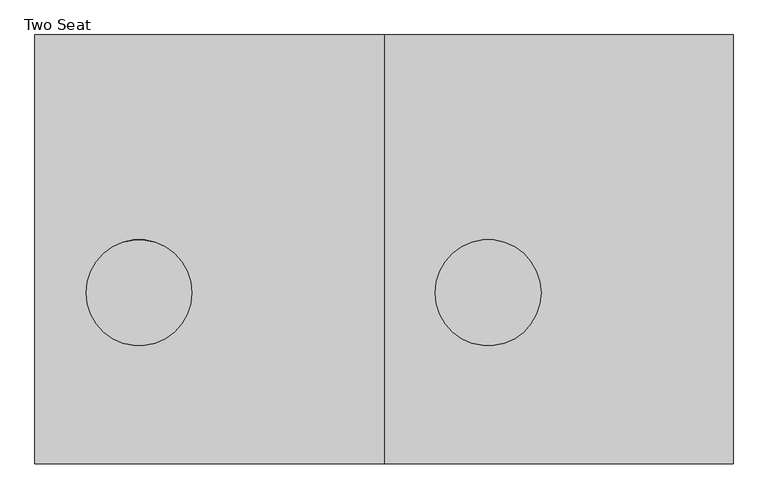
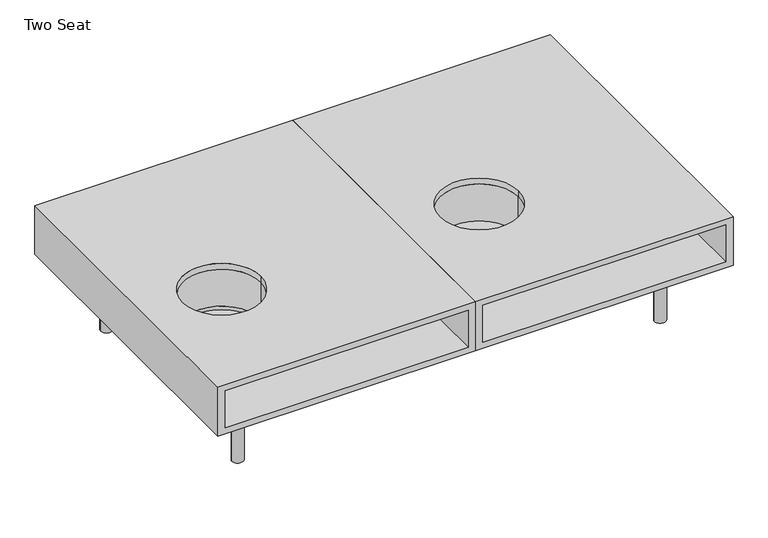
"""IFC4 building model written with IfcOpenShell, lengths in millimetres: furniture geometry, Coalesse_AM_Seating_LoungeChair_Sistema_LegBase_TwoSeat : Two Seat."""

from ifc_helpers import new_model, si_unit, point, frame, frame_2d, origin, origin_with_axes, place, context, project, spatial, polyline, circle_curve, trimmed, segment, composite_curve, outline, extrude, source, transform, mapped, element, save
from ifc_brep_helpers import plane_surface, cylinder_surface, revolved_surface, advanced_brep


def two_seat_c8171cec(model_context):
    return source(origin(), model_context, "Body", "SolidModel", [
        extrude(outline(composite_curve([segment(trimmed(circle_curve(frame_2d((989.1765227, 335.9943389)), 6.096), [point((995.2725227, 335.9943389))], [point((983.0805227, 335.9943389))], False, "CARTESIAN"), True, "CONTINUOUS"), segment(trimmed(circle_curve(frame_2d((989.1765227, 335.9943389)), 6.096), [point((983.0805227, 335.9943389))], [point((995.2725227, 335.9943389))], False, "CARTESIAN"), True, "CONTINUOUS")], self_intersect=False)), origin_with_axes(), (0.0, 0.0, 1.0), 4.3662291),
        extrude(outline(composite_curve([segment(trimmed(circle_curve(frame_2d((989.1765227, -327.2630889)), 6.096), [point((995.2725227, -327.2630889))], [point((983.0805227, -327.2630889))], False, "CARTESIAN"), True, "CONTINUOUS"), segment(trimmed(circle_curve(frame_2d((989.1765227, -327.2630889)), 6.096), [point((983.0805227, -327.2630889))], [point((995.2725227, -327.2630889))], False, "CARTESIAN"), True, "CONTINUOUS")], self_intersect=False)), origin_with_axes(), (0.0, 0.0, 1.0), 4.3662291),
        extrude(outline(composite_curve([segment(polyline([(157.0399209, 1001.756375), (201.7356243, 1001.756375)]), True, "CONTINUOUS"), segment(trimmed(circle_curve(frame_2d((201.7356243, 998.708375)), 3.048), [point((201.7356243, 1001.756375))], [point((204.7836243, 998.708375))], False, "CARTESIAN"), True, "CONTINUOUS"), segment(polyline([(204.7836243, 998.708375), (204.7836243, 979.366199)]), True, "CONTINUOUS"), segment(trimmed(circle_curve(frame_2d((201.7356243, 979.366199)), 3.048), [point((204.7836243, 979.366199))], [point((201.7356243, 976.318199))], False, "CARTESIAN"), True, "CONTINUOUS"), segment(polyline([(201.7356243, 976.318199), (157.1249936, 976.318199)]), True, "CONTINUOUS"), segment(trimmed(circle_curve(frame_2d((157.1249936, 979.4512718)), 3.1330728), [point((157.1249936, 976.318199))], [point((153.9919209, 979.4512718))], False, "CARTESIAN"), True, "CONTINUOUS"), segment(polyline([(153.9919209, 979.4512718), (153.9919209, 998.708375)]), True, "CONTINUOUS"), segment(trimmed(circle_curve(frame_2d((157.0399209, 998.708375)), 3.048), [point((153.9919209, 998.708375))], [point((157.0399209, 1001.756375))], False, "CARTESIAN"), True, "CONTINUOUS")], self_intersect=False)), frame((0.0, 222.3519802, 0.0), z_axis=(0.0, 1.0, 0.0), x_axis=(0.0, 0.0, 1.0)), (0.0, 0.0, 1.0), 92.6273161),
        extrude(outline(composite_curve([segment(polyline([(157.0399209, 1001.756375), (201.7356243, 1001.756375)]), True, "CONTINUOUS"), segment(trimmed(circle_curve(frame_2d((201.7356243, 998.708375)), 3.048), [point((201.7356243, 1001.756375))], [point((204.7836243, 998.708375))], False, "CARTESIAN"), True, "CONTINUOUS"), segment(polyline([(204.7836243, 998.708375), (204.7836243, 979.366199)]), True, "CONTINUOUS"), segment(trimmed(circle_curve(frame_2d((201.7356243, 979.366199)), 3.048), [point((204.7836243, 979.366199))], [point((201.7356243, 976.318199))], False, "CARTESIAN"), True, "CONTINUOUS"), segment(polyline([(201.7356243, 976.318199), (157.1249936, 976.318199)]), True, "CONTINUOUS"), segment(trimmed(circle_curve(frame_2d((157.1249936, 979.4512718)), 3.1330728), [point((157.1249936, 976.318199))], [point((153.9919209, 979.4512718))], False, "CARTESIAN"), True, "CONTINUOUS"), segment(polyline([(153.9919209, 979.4512718), (153.9919209, 998.708375)]), True, "CONTINUOUS"), segment(trimmed(circle_curve(frame_2d((157.0399209, 998.708375)), 3.048), [point((153.9919209, 998.708375))], [point((157.0399209, 1001.756375))], False, "CARTESIAN"), True, "CONTINUOUS")], self_intersect=False)), frame((0.0, -314.9792963, 0.0), z_axis=(0.0, 1.0, 0.0), x_axis=(0.0, 0.0, 1.0)), (0.0, 0.0, 1.0), 92.6273161),
        extrude(outline(composite_curve([segment(trimmed(circle_curve(frame_2d((176.3356606, 966.5259944)), 3.048), [point((179.3836606, 966.5259944))], [point((176.3356606, 963.4779944))], False, "CARTESIAN"), True, "CONTINUOUS"), segment(polyline([(176.3356606, 963.4779944), (157.0399209, 963.4779944)]), True, "CONTINUOUS"), segment(trimmed(circle_curve(frame_2d((157.0399209, 966.5259944)), 3.048), [point((157.0399209, 963.4779944))], [point((153.9919209, 966.5259944))], False, "CARTESIAN"), True, "CONTINUOUS"), segment(polyline([(153.9919209, 966.5259944), (153.9919209, 1011.2135501)]), True, "CONTINUOUS"), segment(trimmed(circle_curve(frame_2d((157.056462, 1011.2135501)), 3.0645412), [point((153.9919209, 1011.2135501))], [point((157.056462, 1014.2780913))], False, "CARTESIAN"), True, "CONTINUOUS"), segment(polyline([(157.056462, 1014.2780913), (176.3356606, 1014.2780913)]), True, "CONTINUOUS"), segment(trimmed(circle_curve(frame_2d((176.3356606, 1011.2300913)), 3.048), [point((176.3356606, 1014.2780913))], [point((179.3836606, 1011.2300913))], False, "CARTESIAN"), True, "CONTINUOUS"), segment(polyline([(179.3836606, 1011.2300913), (179.3836606, 966.5259944)]), True, "CONTINUOUS")], self_intersect=False)), frame((0.0, -222.3519802, 0.0), z_axis=(0.0, 1.0, 0.0), x_axis=(0.0, 0.0, 1.0)), (0.0, 0.0, 1.0), 444.7039604),
        extrude(outline(composite_curve([segment(trimmed(circle_curve(frame_2d((989.1765227, 332.3095741)), 16.51), [point((1005.6865227, 332.3095741))], [point((972.6665227, 332.3095741))], False, "CARTESIAN"), True, "CONTINUOUS"), segment(trimmed(circle_curve(frame_2d((989.1765227, 332.3095741)), 16.51), [point((972.6665227, 332.3095741))], [point((1005.6865227, 332.3095741))], False, "CARTESIAN"), True, "CONTINUOUS")], self_intersect=False)), frame((0.0, 0.0, 4.3662291), z_axis=(0.0, 0.0, 1.0), x_axis=(1.0, 0.0, 0.0)), (0.0, 0.0, 1.0), 200.1037709),
        extrude(outline(composite_curve([segment(trimmed(circle_curve(frame_2d((988.7796477, -327.5470741)), 16.51), [point((1005.2896477, -327.5470741))], [point((972.2696477, -327.5470741))], False, "CARTESIAN"), True, "CONTINUOUS"), segment(trimmed(circle_curve(frame_2d((988.7796477, -327.5470741)), 16.51), [point((972.2696477, -327.5470741))], [point((1005.2896477, -327.5470741))], False, "CARTESIAN"), True, "CONTINUOUS")], self_intersect=False)), frame((0.0, 0.0, 4.3662291), z_axis=(0.0, 0.0, 1.0), x_axis=(1.0, 0.0, 0.0)), (0.0, 0.0, 1.0), 200.1037709),
        advanced_brep(
        [(-353.0071698, -461.2704381, 336.5211742), (-353.0071698, -461.2704381, 223.173587), (-353.0071698, 459.4795619, 223.173587), (-353.0071698, 459.4795619, 336.5211742), (353.6069667, -461.2704381, 336.5211742), (353.6069667, 459.4795619, 336.5211742), (-37.7047777, -93.7879891, 336.5211742), (-265.0667966, -93.7879891, 336.5211742), (374.4965227, -461.2704381, 354.7774), (-374.8034773, -461.2704381, 354.7774), (-374.8034773, -461.2704381, 204.47), (374.4965227, -461.2704381, 204.47), (353.6069667, -461.2704381, 223.173587), (374.4965227, 459.4795619, 354.7774), (374.4965227, 459.4795619, 204.47), (-374.8034773, 459.4795619, 204.47), (-374.8034773, 459.4795619, 354.7774), (353.6069667, 459.4795619, 223.173587), (-265.0667966, -93.7879891, 354.7774), (-37.7047777, -93.7879891, 354.7774), (-265.0667966, -93.7879891, 223.173587), (-37.7047777, -93.7879891, 223.173587), (-265.0667966, -93.7879891, 212.4123377), (-37.7047777, -93.7879891, 212.4123377)],
        [
            (0, 1),
            (1, 2),
            (2, 3),
            (3, 0),
            (4, 0),
            (3, 5),
            (5, 4),
            (6, 7, circle_curve(frame((-151.3857872, -93.7879891, 336.5211742), z_axis=(0.0, 0.0, 1.0), x_axis=(1.0, 0.0, 0.0)), 113.6810095)),
            (7, 6, circle_curve(frame((-151.3857872, -93.7879891, 336.5211742), z_axis=(0.0, 0.0, 1.0), x_axis=(1.0, 0.0, 0.0)), 113.6810095)),
            (8, 9),
            (9, 10),
            (10, 11),
            (11, 8),
            (4, 12),
            (12, 1),
            (13, 14),
            (14, 15),
            (15, 16),
            (16, 13),
            (2, 17),
            (17, 5),
            (8, 13),
            (16, 9),
            (18, 19, circle_curve(frame((-151.3857872, -93.7879891, 354.7774), z_axis=(0.0, 0.0, -1.0), x_axis=(1.0, 0.0, 0.0)), 113.6810095)),
            (19, 18, circle_curve(frame((-151.3857872, -93.7879891, 354.7774), z_axis=(0.0, 0.0, -1.0), x_axis=(1.0, 0.0, 0.0)), 113.6810095)),
            (15, 10),
            (14, 11),
            (17, 12),
            (20, 21, circle_curve(frame((-151.3857872, -93.7879891, 223.173587), z_axis=(0.0, 0.0, -1.0), x_axis=(1.0, 0.0, 0.0)), 113.6810095)),
            (21, 20, circle_curve(frame((-151.3857872, -93.7879891, 223.173587), z_axis=(0.0, 0.0, -1.0), x_axis=(1.0, 0.0, 0.0)), 113.6810095)),
            (22, 23, circle_curve(frame((-151.3857872, -93.7879891, 212.4123377), z_axis=(0.0, 0.0, 1.0), x_axis=(1.0, 0.0, 0.0)), 113.6810095)),
            (23, 22, circle_curve(frame((-151.3857872, -93.7879891, 212.4123377), z_axis=(0.0, 0.0, 1.0), x_axis=(1.0, 0.0, 0.0)), 113.6810095)),
            (23, 21),
            (20, 22),
            (18, 7),
            (6, 19),
        ],
        [
            plane_surface(frame((-353.0071698, -461.2704381, 223.173587), z_axis=(1.0, 0.0, 0.0), x_axis=(0.0, 1.0, 0.0))),
            plane_surface(frame((-353.0071698, -461.2704381, 336.5211742), z_axis=(0.0, 0.0, -1.0), x_axis=(0.0, 1.0, 0.0))),
            plane_surface(frame((-371.2653576, -461.2704381, 354.7774), z_axis=(0.0, -1.0, 0.0), x_axis=(-1.0, 0.0, 0.0))),
            plane_surface(frame((-371.2653576, 459.4795619, 354.7774), z_axis=(0.0, 1.0, 0.0), x_axis=(1.0, 0.0, 0.0))),
            plane_surface(frame((374.4965227, -461.2704381, 354.7774), z_axis=(0.0, 0.0, 1.0), x_axis=(0.0, 1.0, 0.0))),
            plane_surface(frame((-374.8034773, -461.2704381, 354.7774), z_axis=(-1.0, 0.0, 0.0), x_axis=(0.0, 1.0, 0.0))),
            plane_surface(frame((-374.8034773, -461.2704381, 204.47), z_axis=(0.0, 0.0, -1.0), x_axis=(0.0, 1.0, 0.0))),
            plane_surface(frame((374.4965227, -461.2704381, 204.47), z_axis=(1.0, 0.0, 0.0), x_axis=(0.0, 1.0, 0.0))),
            plane_surface(frame((353.6069667, -461.2704381, 336.5211742), z_axis=(-1.0, 0.0, 0.0), x_axis=(0.0, 1.0, 0.0))),
            plane_surface(frame((353.6069667, -461.2704381, 223.173587), z_axis=(0.0, 0.0, 1.0), x_axis=(0.0, 1.0, 0.0))),
            plane_surface(frame((-37.7047777, -93.7879891, 212.4123377), z_axis=(0.0, 0.0, 1.0), x_axis=(0.0, -1.0, 0.0))),
            revolved_surface(polyline([(-37.70477770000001, -93.7879891, 212.4123377), (-37.70477770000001, -93.7879891, 223.173587)]), (-151.3857872, -93.7879891, 446.6108932), (0.0, 0.0, -1.0)),
            revolved_surface(polyline([(-37.70477770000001, -93.7879891, 336.5211742), (-37.70477770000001, -93.7879891, 354.7774)]), (-151.3857872, -93.7879891, 446.6108932), (0.0, 0.0, -1.0)),
        ],
        [
            (0, [[1, 2, 3, 4]]),
            (1, [[5, -4, 6, 7], [8, 9]]),
            (2, [[10, 11, 12, 13], [14, 15, -1, -5]]),
            (3, [[16, 17, 18, 19], [-6, -3, 20, 21]]),
            (4, [[-10, 22, -19, 23], [24, 25]]),
            (5, [[-11, -23, -18, 26]]),
            (6, [[-12, -26, -17, 27]]),
            (7, [[-13, -27, -16, -22]]),
            (8, [[-14, -7, -21, 28]]),
            (9, [[-15, -28, -20, -2], [29, 30]]),
            (10, [[31, 32]]),
            (11, [[-32, 33, -29, 34]]),
            (12, [[35, -8, 36, -24]]),
            (12, [[-35, -25, -36, -9]]),
            (11, [[-31, -34, -30, -33]]),
        ],
    ),
        extrude(outline(composite_curve([segment(trimmed(circle_curve(frame_2d((-151.3857872, -93.7879891)), 127.924967), [point((-279.3107542, -93.7879891))], [point((-23.4608201, -93.7879891))], False, "CARTESIAN"), True, "CONTINUOUS"), segment(trimmed(circle_curve(frame_2d((-151.3857872, -93.7879891)), 127.924967), [point((-23.4608201, -93.7879891))], [point((-279.3107542, -93.7879891))], False, "CARTESIAN"), True, "CONTINUOUS")], self_intersect=False), holes=[composite_curve([segment(trimmed(circle_curve(frame_2d((-151.3857872, -93.7879891)), 113.6810095), [point((-265.0667966, -93.7879891))], [point((-37.7047777, -93.7879891))], True, "CARTESIAN"), True, "CONTINUOUS"), segment(trimmed(circle_curve(frame_2d((-151.3857872, -93.7879891)), 113.6810095), [point((-37.7047777, -93.7879891))], [point((-265.0667966, -93.7879891))], True, "CARTESIAN"), True, "CONTINUOUS")], self_intersect=False)]), frame((0.0, 0.0, 212.4123377), z_axis=(0.0, 0.0, 1.0), x_axis=(1.0, 0.0, 0.0)), (0.0, 0.0, 1.0), 124.1087275),
        advanced_brep(
        [(484.2332034, -93.7879891, 336.5210652), (711.5952223, -93.7879891, 336.5210652), (711.5952223, -93.7879891, 223.173587), (711.5952223, -93.7879891, 212.4123377), (484.2332034, -93.7879891, 212.4123377), (484.2332034, -93.7879891, 223.173587), (469.9892458, -93.7879891, 212.4123377), (725.8391799, -93.7879891, 212.4123377), (469.9892458, -93.7879891, 336.5210652), (725.8391799, -93.7879891, 336.5210652)],
        [
            (0, 1, circle_curve(frame((597.9142128, -93.7879891, 336.5210652), z_axis=(0.0, 0.0, 1.0), x_axis=(1.0, 0.0, 0.0)), 113.6810095)),
            (1, 2),
            (2, 3),
            (3, 4, circle_curve(frame((597.9142128, -93.7879891, 212.4123377), z_axis=(0.0, 0.0, -1.0), x_axis=(1.0, 0.0, 0.0)), 113.6810095)),
            (4, 5),
            (5, 0),
            (6, 7, circle_curve(frame((597.9142128, -93.7879891, 212.4123377), z_axis=(0.0, 0.0, -1.0), x_axis=(1.0, 0.0, 0.0)), 127.924967)),
            (7, 6, circle_curve(frame((597.9142128, -93.7879891, 212.4123377), z_axis=(0.0, 0.0, -1.0), x_axis=(1.0, 0.0, 0.0)), 127.924967)),
            (3, 4, circle_curve(frame((597.9142128, -93.7879891, 212.4123377), z_axis=(0.0, 0.0, 1.0), x_axis=(1.0, 0.0, 0.0)), 113.6810095)),
            (8, 9, circle_curve(frame((597.9142128, -93.7879891, 336.5210652), z_axis=(0.0, 0.0, 1.0), x_axis=(1.0, 0.0, 0.0)), 127.924967)),
            (9, 8, circle_curve(frame((597.9142128, -93.7879891, 336.5210652), z_axis=(0.0, 0.0, 1.0), x_axis=(1.0, 0.0, 0.0)), 127.924967)),
            (0, 1, circle_curve(frame((597.9142128, -93.7879891, 336.5210652), z_axis=(0.0, 0.0, -1.0), x_axis=(1.0, 0.0, 0.0)), 113.6810095)),
            (8, 6),
            (7, 9),
        ],
        [
            revolved_surface(polyline([(711.5952222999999, -93.7879891, 212.4123377), (711.5952222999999, -93.7879891, 336.5210652)]), (597.9142128, -93.7879891, 212.4123377), (0.0, 0.0, -1.0)),
            plane_surface(frame((711.5952223, -93.7879891, 212.4123377), z_axis=(0.0, 0.0, -1.0), x_axis=(0.0, 1.0, 0.0))),
            plane_surface(frame((711.5952223, -93.7879891, 336.5210652), z_axis=(0.0, 0.0, 1.0), x_axis=(0.0, -1.0, 0.0))),
            cylinder_surface(frame((597.9142128, -93.7879891, 0.0), z_axis=(0.0, 0.0, 1.0), x_axis=(1.0, 0.0, 0.0)), 127.924967),
        ],
        [
            (0, [[1, 2, 3, 4, 5, 6]]),
            (1, [[7, 8], [-4, 9]]),
            (2, [[10, 11], [12, -1]]),
            (0, [[-12, -6, -5, -9, -3, -2]]),
            (3, [[-10, 13, -8, 14]]),
            (3, [[-11, -14, -7, -13]]),
        ],
    ),
        advanced_brep(
        [(1102.9069667, -461.2704381, 336.5211742), (396.2928302, -461.2704381, 336.5211742), (396.2928302, 459.4795619, 336.5211742), (1102.9069667, 459.4795619, 336.5211742), (711.5952223, -93.7879891, 336.5211742), (484.2332034, -93.7879891, 336.5211742), (1123.7965227, -461.2704381, 354.7774), (374.4965227, -461.2704381, 354.7774), (374.4965227, -461.2704381, 204.47), (1123.7965227, -461.2704381, 204.47), (1102.9069667, -461.2704381, 223.173587), (396.2928302, -461.2704381, 223.173587), (1123.7965227, 459.4795619, 354.7774), (1123.7965227, 459.4795619, 204.47), (374.4965227, 459.4795619, 204.47), (374.4965227, 459.4795619, 354.7774), (396.2928302, 459.4795619, 223.173587), (1102.9069667, 459.4795619, 223.173587), (484.2332034, -93.7879891, 354.7774), (711.5952223, -93.7879891, 354.7774)],
        [
            (0, 1),
            (1, 2),
            (2, 3),
            (3, 0),
            (4, 5, circle_curve(frame((597.9142128, -93.7879891, 336.5211742), z_axis=(0.0, 0.0, 1.0), x_axis=(1.0, 0.0, 0.0)), 113.6810095)),
            (5, 4, circle_curve(frame((597.9142128, -93.7879891, 336.5211742), z_axis=(0.0, 0.0, 1.0), x_axis=(1.0, 0.0, 0.0)), 113.6810095)),
            (6, 7),
            (7, 8),
            (8, 9),
            (9, 6),
            (0, 10),
            (10, 11),
            (11, 1),
            (12, 13),
            (13, 14),
            (14, 15),
            (15, 12),
            (2, 16),
            (16, 17),
            (17, 3),
            (6, 12),
            (15, 7),
            (18, 19, circle_curve(frame((597.9142128, -93.7879891, 354.7774), z_axis=(0.0, 0.0, -1.0), x_axis=(1.0, 0.0, 0.0)), 113.6810095)),
            (19, 18, circle_curve(frame((597.9142128, -93.7879891, 354.7774), z_axis=(0.0, 0.0, -1.0), x_axis=(1.0, 0.0, 0.0)), 113.6810095)),
            (14, 8),
            (13, 9),
            (11, 16),
            (17, 10),
            (18, 5),
            (4, 19),
        ],
        [
            plane_surface(frame((396.2928302, -461.2704381, 336.5211742), z_axis=(0.0, 0.0, -1.0), x_axis=(0.0, 1.0, 0.0))),
            plane_surface(frame((378.0346424, -461.2704381, 354.7774), z_axis=(0.0, -1.0, 0.0), x_axis=(-1.0, 0.0, 0.0))),
            plane_surface(frame((378.0346424, 459.4795619, 354.7774), z_axis=(0.0, 1.0, 0.0), x_axis=(1.0, 0.0, 0.0))),
            plane_surface(frame((1123.7965227, -461.2704381, 354.7774), z_axis=(0.0, 0.0, 1.0), x_axis=(0.0, 1.0, 0.0))),
            plane_surface(frame((374.4965227, -461.2704381, 354.7774), z_axis=(-1.0, 0.0, 0.0), x_axis=(0.0, 1.0, 0.0))),
            plane_surface(frame((374.4965227, -461.2704381, 204.47), z_axis=(0.0, 0.0, -1.0), x_axis=(0.0, 1.0, 0.0))),
            plane_surface(frame((1123.7965227, -461.2704381, 204.47), z_axis=(1.0, 0.0, 0.0), x_axis=(0.0, 1.0, 0.0))),
            plane_surface(frame((396.2928302, -461.2704381, 223.173587), z_axis=(1.0, 0.0, 0.0), x_axis=(0.0, 1.0, 0.0))),
            plane_surface(frame((1102.9069667, -461.2704381, 336.5211742), z_axis=(-1.0, 0.0, 0.0), x_axis=(0.0, 1.0, 0.0))),
            plane_surface(frame((1102.9069667, -461.2704381, 223.173587), z_axis=(0.0, 0.0, 1.0), x_axis=(0.0, 1.0, 0.0))),
            revolved_surface(polyline([(711.5952222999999, -93.7879891, 336.5211742), (711.5952222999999, -93.7879891, 354.7774)]), (597.9142128, -93.7879891, 354.7774), (0.0, 0.0, -1.0)),
        ],
        [
            (0, [[1, 2, 3, 4], [5, 6]]),
            (1, [[7, 8, 9, 10], [11, 12, 13, -1]]),
            (2, [[14, 15, 16, 17], [-3, 18, 19, 20]]),
            (3, [[-7, 21, -17, 22], [23, 24]]),
            (4, [[-8, -22, -16, 25]]),
            (5, [[-9, -25, -15, 26]]),
            (6, [[-10, -26, -14, -21]]),
            (7, [[-13, 27, -18, -2]]),
            (8, [[-11, -4, -20, 28]]),
            (9, [[-12, -28, -19, -27]]),
            (10, [[29, -5, 30, -23]]),
            (10, [[-29, -24, -30, -6]]),
        ],
    ),
        extrude(outline(composite_curve([segment(trimmed(circle_curve(frame_2d((-240.1834773, 335.9943389)), 6.096), [point((-246.2794773, 335.9943389))], [point((-234.0874773, 335.9943389))], False, "CARTESIAN"), True, "CONTINUOUS"), segment(trimmed(circle_curve(frame_2d((-240.1834773, 335.9943389)), 6.096), [point((-234.0874773, 335.9943389))], [point((-246.2794773, 335.9943389))], False, "CARTESIAN"), True, "CONTINUOUS")], self_intersect=False)), origin_with_axes(), (0.0, 0.0, 1.0), 4.3662291),
        extrude(outline(composite_curve([segment(trimmed(circle_curve(frame_2d((-240.1834773, -327.2630889)), 6.096), [point((-246.2794773, -327.2630889))], [point((-234.0874773, -327.2630889))], False, "CARTESIAN"), True, "CONTINUOUS"), segment(trimmed(circle_curve(frame_2d((-240.1834773, -327.2630889)), 6.096), [point((-234.0874773, -327.2630889))], [point((-246.2794773, -327.2630889))], False, "CARTESIAN"), True, "CONTINUOUS")], self_intersect=False)), origin_with_axes(), (0.0, 0.0, 1.0), 4.3662291),
        extrude(outline(composite_curve([segment(trimmed(circle_curve(frame_2d((157.0399209, -249.7153296)), 3.048), [point((157.0399209, -252.7633296))], [point((153.9919209, -249.7153296))], False, "CARTESIAN"), True, "CONTINUOUS"), segment(polyline([(153.9919209, -249.7153296), (153.9919209, -230.4582264)]), True, "CONTINUOUS"), segment(trimmed(circle_curve(frame_2d((157.1249936, -230.4582264)), 3.1330728), [point((153.9919209, -230.4582264))], [point((157.1249936, -227.3251537))], False, "CARTESIAN"), True, "CONTINUOUS"), segment(polyline([(157.1249936, -227.3251537), (201.7356243, -227.3251537)]), True, "CONTINUOUS"), segment(trimmed(circle_curve(frame_2d((201.7356243, -230.3731537)), 3.048), [point((201.7356243, -227.3251537))], [point((204.7836243, -230.3731537))], False, "CARTESIAN"), True, "CONTINUOUS"), segment(polyline([(204.7836243, -230.3731537), (204.7836243, -249.7153296)]), True, "CONTINUOUS"), segment(trimmed(circle_curve(frame_2d((201.7356243, -249.7153296)), 3.048), [point((204.7836243, -249.7153296))], [point((201.7356243, -252.7633296))], False, "CARTESIAN"), True, "CONTINUOUS"), segment(polyline([(201.7356243, -252.7633296), (157.0399209, -252.7633296)]), True, "CONTINUOUS")], self_intersect=False)), frame((0.0, 222.3519802, 0.0), z_axis=(0.0, 1.0, 0.0), x_axis=(0.0, 0.0, 1.0)), (0.0, 0.0, 1.0), 92.6273161),
        extrude(outline(composite_curve([segment(trimmed(circle_curve(frame_2d((157.0399209, -249.7153296)), 3.048), [point((157.0399209, -252.7633296))], [point((153.9919209, -249.7153296))], False, "CARTESIAN"), True, "CONTINUOUS"), segment(polyline([(153.9919209, -249.7153296), (153.9919209, -230.4582264)]), True, "CONTINUOUS"), segment(trimmed(circle_curve(frame_2d((157.1249936, -230.4582264)), 3.1330728), [point((153.9919209, -230.4582264))], [point((157.1249936, -227.3251537))], False, "CARTESIAN"), True, "CONTINUOUS"), segment(polyline([(157.1249936, -227.3251537), (201.7356243, -227.3251537)]), True, "CONTINUOUS"), segment(trimmed(circle_curve(frame_2d((201.7356243, -230.3731537)), 3.048), [point((201.7356243, -227.3251537))], [point((204.7836243, -230.3731537))], False, "CARTESIAN"), True, "CONTINUOUS"), segment(polyline([(204.7836243, -230.3731537), (204.7836243, -249.7153296)]), True, "CONTINUOUS"), segment(trimmed(circle_curve(frame_2d((201.7356243, -249.7153296)), 3.048), [point((204.7836243, -249.7153296))], [point((201.7356243, -252.7633296))], False, "CARTESIAN"), True, "CONTINUOUS"), segment(polyline([(201.7356243, -252.7633296), (157.0399209, -252.7633296)]), True, "CONTINUOUS")], self_intersect=False)), frame((0.0, -314.9792963, 0.0), z_axis=(0.0, 1.0, 0.0), x_axis=(0.0, 0.0, 1.0)), (0.0, 0.0, 1.0), 92.6273161),
        extrude(outline(composite_curve([segment(polyline([(179.3836606, -217.532949), (179.3836606, -262.2370459)]), True, "CONTINUOUS"), segment(trimmed(circle_curve(frame_2d((176.3356606, -262.2370459)), 3.048), [point((179.3836606, -262.2370459))], [point((176.3356606, -265.2850459))], False, "CARTESIAN"), True, "CONTINUOUS"), segment(polyline([(176.3356606, -265.2850459), (157.056462, -265.2850459)]), True, "CONTINUOUS"), segment(trimmed(circle_curve(frame_2d((157.056462, -262.2205047)), 3.0645412), [point((157.056462, -265.2850459))], [point((153.9919209, -262.2205047))], False, "CARTESIAN"), True, "CONTINUOUS"), segment(polyline([(153.9919209, -262.2205047), (153.9919209, -217.532949)]), True, "CONTINUOUS"), segment(trimmed(circle_curve(frame_2d((157.0399209, -217.532949)), 3.048), [point((153.9919209, -217.532949))], [point((157.0399209, -214.484949))], False, "CARTESIAN"), True, "CONTINUOUS"), segment(polyline([(157.0399209, -214.484949), (176.3356606, -214.484949)]), True, "CONTINUOUS"), segment(trimmed(circle_curve(frame_2d((176.3356606, -217.532949)), 3.048), [point((176.3356606, -214.484949))], [point((179.3836606, -217.532949))], False, "CARTESIAN"), True, "CONTINUOUS")], self_intersect=False)), frame((0.0, -222.3519802, 0.0), z_axis=(0.0, 1.0, 0.0), x_axis=(0.0, 0.0, 1.0)), (0.0, 0.0, 1.0), 444.7039604),
        extrude(outline(composite_curve([segment(trimmed(circle_curve(frame_2d((-240.1834773, 332.3095741)), 16.51), [point((-256.6934773, 332.3095741))], [point((-223.6734773, 332.3095741))], False, "CARTESIAN"), True, "CONTINUOUS"), segment(trimmed(circle_curve(frame_2d((-240.1834773, 332.3095741)), 16.51), [point((-223.6734773, 332.3095741))], [point((-256.6934773, 332.3095741))], False, "CARTESIAN"), True, "CONTINUOUS")], self_intersect=False)), frame((0.0, 0.0, 4.3662291), z_axis=(0.0, 0.0, 1.0), x_axis=(1.0, 0.0, 0.0)), (0.0, 0.0, 1.0), 200.1037709),
        extrude(outline(composite_curve([segment(trimmed(circle_curve(frame_2d((-239.7866023, -327.5470741)), 16.51), [point((-256.2966023, -327.5470741))], [point((-223.2766023, -327.5470741))], False, "CARTESIAN"), True, "CONTINUOUS"), segment(trimmed(circle_curve(frame_2d((-239.7866023, -327.5470741)), 16.51), [point((-223.2766023, -327.5470741))], [point((-256.2966023, -327.5470741))], False, "CARTESIAN"), True, "CONTINUOUS")], self_intersect=False)), frame((0.0, 0.0, 4.3662291), z_axis=(0.0, 0.0, 1.0), x_axis=(1.0, 0.0, 0.0)), (0.0, 0.0, 1.0), 200.1037709),
    ])


if __name__ == "__main__":
    model = new_model("IFC4")
    model_context = context("Model", 3, world=origin())
    ifc_project = project(units=[si_unit("LENGTHUNIT", "METRE", prefix="MILLI")], contexts=[model_context])
    site = spatial("IfcSite", under=ifc_project)
    building = spatial("IfcBuilding", under=site)
    placement = place(None, origin())
    two_seat_shape = two_seat_c8171cec(model_context)
    element("IfcFurniture", 1, ObjectType="Coalesse_AM_Seating_LoungeChair_Sistema_LegBase_TwoSeat : Two Seat", at=placement, inside=building, context=model_context, shape_type="MappedRepresentation", body=[
        mapped(two_seat_shape, transform((0.0, 0.0, 0.0), x_axis=(1.0, 0.0, 0.0), y_axis=(0.0, 1.0, 0.0), z_axis=(0.0, 0.0, 1.0))),
    ])
    save(model, "model.ifc")
